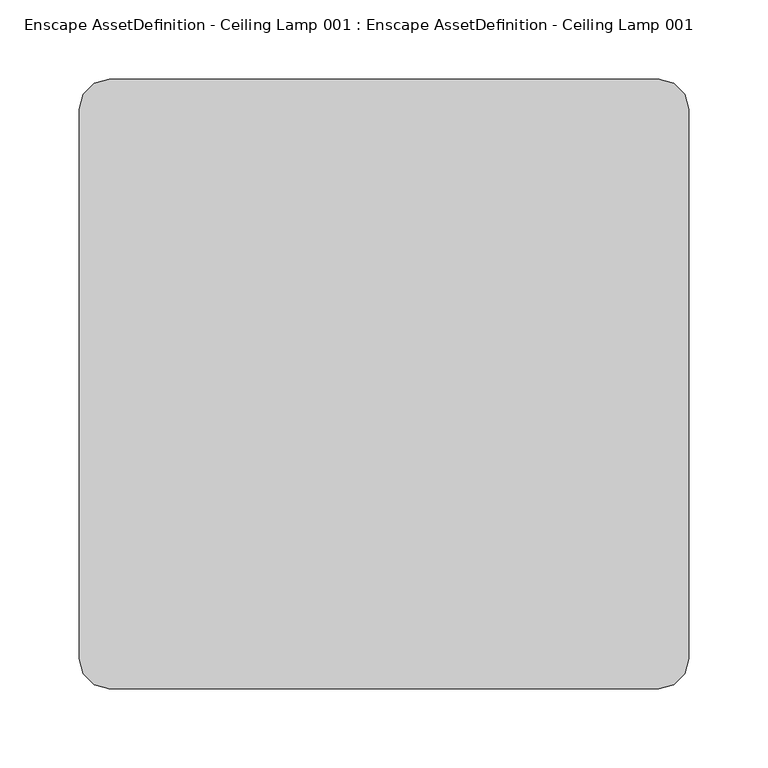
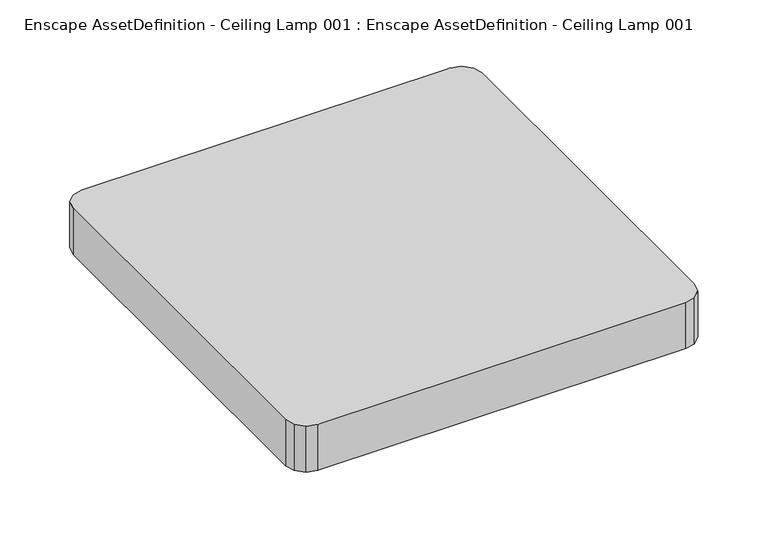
"""IFC4 building model written with IfcOpenShell, lengths in millimetres: geographic element geometry, Enscape AssetDefinition - Ceiling Lamp 001 : Enscape AssetDefinition - Ceiling Lamp 001."""

from ifc_helpers import new_model, si_unit, origin, place, context, project, spatial, triangles, source, transform, mapped, element, save


def enscape_assetdefinition_ceiling_lamp_001_enscape_b66385b6(model_context):
    return source(origin(), model_context, "Body", "Tessellation", [
        triangles([(173.4370698, -192.5580866, 0.0), (173.4370698, -192.5580866, -45.9999902), (182.9975873, -189.9959973, 0.0), (-173.4370698, -192.5580866, -45.9999902), (-189.9959973, -182.9975873, -45.9999902), (-182.9975873, -189.9959973, -45.9999902), (-182.9975873, -189.9959973, 0.0), (-189.9959973, -182.9975873, 0.0), (-192.5580866, -173.4370698, -45.9999902), (-192.5580866, -173.4370698, 0.0), (-173.4370698, -192.5580866, 0.0), (-192.5580866, 173.4370698, -45.9999902), (-189.9959973, 182.9975873, -45.9999902), (-189.9959973, 182.9975873, 0.0), (173.4370698, 192.5580866, 0.0), (-192.5580866, 173.4370698, 0.0), (-173.4370698, 192.5580866, -45.9999902), (-182.9975873, 189.9959973, -45.9999902), (-182.9975873, 189.9959973, 0.0), (-173.4370698, 192.5580866, 0.0), (173.4370698, 192.5580866, -45.9999902), (192.5580866, 173.4370698, -45.9999902), (182.9975873, 189.9959973, -45.9999902), (189.9959973, 182.9975873, -45.9999902), (182.9975873, 189.9959973, 0.0), (189.9959973, 182.9975873, 0.0), (192.5580866, 173.4370698, 0.0), (192.5580866, -173.4370698, 0.0), (192.5580866, -173.4370698, -45.9999902), (189.9959973, -182.9975873, 0.0), (189.9959973, -182.9975873, -45.9999902), (182.9975873, -189.9959973, -45.9999902)], [[9, 17, 22], [32, 30, 3], [2, 32, 3], [22, 2, 9], [32, 31, 30], [31, 32, 2], [11, 28, 15], [3, 30, 28], [31, 28, 30], [31, 29, 28], [29, 31, 2], [22, 29, 2], [27, 28, 29], [28, 27, 15], [27, 29, 22], [27, 26, 15], [22, 26, 27], [22, 24, 26], [26, 25, 15], [24, 25, 26], [24, 23, 25], [23, 24, 22], [23, 15, 25], [23, 21, 15], [21, 23, 22], [17, 21, 22], [20, 15, 21], [20, 21, 17], [17, 18, 19], [17, 19, 20], [20, 19, 16], [15, 20, 16], [15, 16, 11], [19, 14, 16], [18, 14, 19], [18, 13, 14], [13, 18, 17], [13, 16, 14], [13, 12, 16], [12, 13, 17], [9, 12, 17], [10, 16, 12], [16, 10, 11], [10, 12, 9], [8, 10, 9], [10, 8, 11], [8, 9, 5], [7, 8, 5], [8, 7, 11], [11, 7, 6], [6, 5, 9], [7, 5, 6], [4, 6, 9], [2, 4, 9], [11, 6, 4], [1, 3, 28], [11, 1, 28], [1, 11, 4], [2, 3, 1], [1, 4, 2]]),
    ])


if __name__ == "__main__":
    model = new_model("IFC4")
    model_context = context("Model", 3, world=origin())
    ifc_project = project(units=[si_unit("LENGTHUNIT", "METRE", prefix="MILLI")], contexts=[model_context])
    site = spatial("IfcSite", under=ifc_project)
    building = spatial("IfcBuilding", under=site)
    placement = place(None, origin())
    enscape_assetdefinition_ceiling_lamp_001_enscape_shape = enscape_assetdefinition_ceiling_lamp_001_enscape_b66385b6(model_context)
    element("IfcGeographicElement", 1, ObjectType="Enscape AssetDefinition - Ceiling Lamp 001 : Enscape AssetDefinition - Ceiling Lamp 001", at=placement, inside=building, context=model_context, shape_type="MappedRepresentation", body=[
        mapped(enscape_assetdefinition_ceiling_lamp_001_enscape_shape, transform((0.0, 0.0, 0.0), x_axis=(1.0, 0.0, 0.0), y_axis=(0.0, 1.0, 0.0), z_axis=(0.0, 0.0, 1.0))),
    ])
    save(model, "model.ifc")
